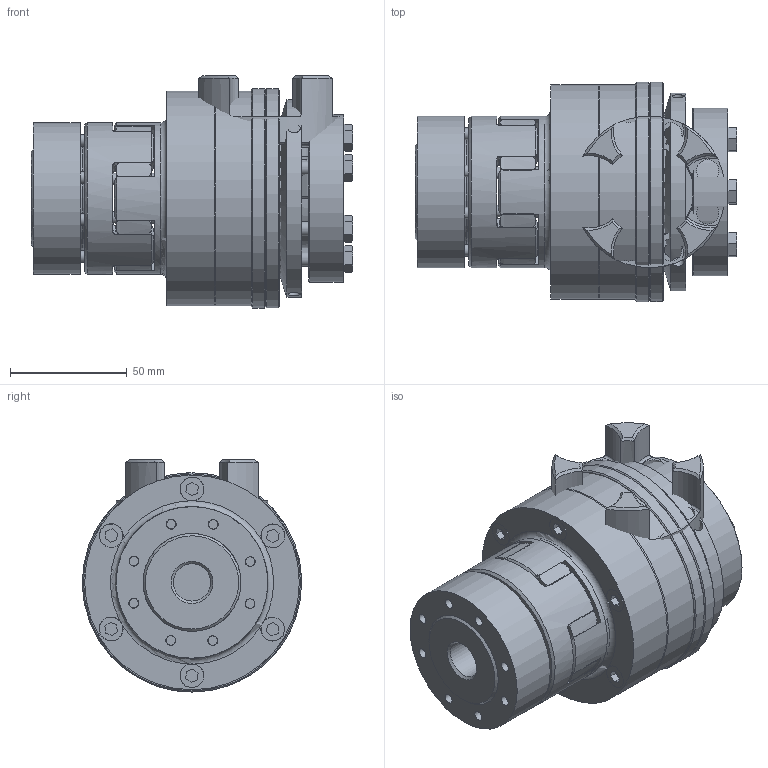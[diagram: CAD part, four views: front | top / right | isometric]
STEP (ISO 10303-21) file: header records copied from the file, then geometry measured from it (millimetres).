
FILE_DESCRIPTION( ( 'Unknown' ), '1' );
FILE_NAME( 'C:/Dokumente und Einstellungen/Sven/Desktop/hp kbk/E-AA/KBK EAA-28-140.stp', 'Unknown', ( 'Unknown' ), ( 'Unknown' ), 'XStep 1.0', 'Unknown', ' ' );
FILE_SCHEMA( ( 'automotive_design' ) );
Length unit declared in the file: millimetre
Products named in the file (19): Assem1; Assem2; Assem3; Zylinderschraube DIN 912_3; ball_bearing_-_6008_0_01_0; ball_bearing_-_6008_0_02_0; ball_bearing_-_6008_0_03_0; Stellring 80_0; Druckring 80_0; Flansch 80_0; a_40_0; Elastomerflansch 28_0; Zahnkranz EK28_Standard_0; KBE 3 - 28_Nabe; KBE3-28_Druckring_0; ISO EN DIN 4762 M5x25; KBK L-A-80 Grundkörper_0; Druckring L-A-80_0; din_en_24017_m6x25_0
Bounding box: 137.9 x 94 x 99.5 mm (x, y, z)
Volume: 1057021 mm3; surface area: 366241.1 mm2
Topology: 53 solids, 53 shells, 1284 faces, 2874 edges, 1831 vertices
Faces by surface type: plane 477, cylinder 396, cone 337, torus 74
Full cylindrical faces by diameter (mm): 2.5 x4, 3.242 x6, 4.2 x24, 4.917 x24, 5 x33, 5.2 x6, 5.5 x16, 6 x15, 6.2 x12, 6.6 x12, 8.5 x9, 8.8 x7, 9.5 x16, 10 x8, 10.2 x12, 16 x2, 19 x2, 30 x6, 37.5 x2, 39 x2, 40 x7, 42.29 x2, 45 x2, 49.2 x6, 59.1 x6, 61 x2, 62 x4, 65 x6, 68 x7, 70 x2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
Entity records: 13960 total; most frequent: CARTESIAN_POINT 2940, DIRECTION 2258, ORIENTED_EDGE 1692, AXIS2_PLACEMENT_3D 1054, EDGE_CURVE 846, EDGE_LOOP 780, VERTEX_POINT 632, FACE_OUTER_BOUND 597
